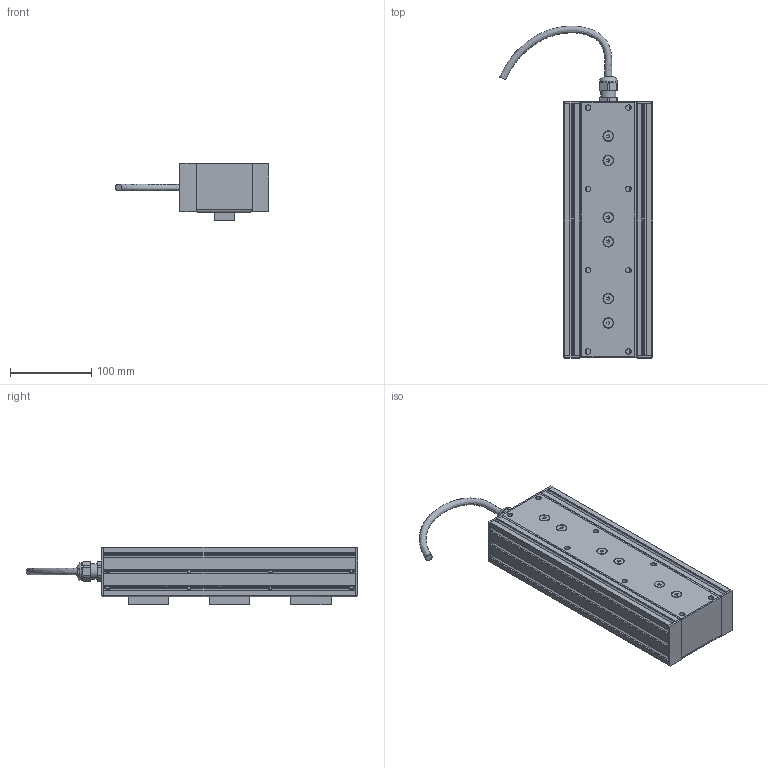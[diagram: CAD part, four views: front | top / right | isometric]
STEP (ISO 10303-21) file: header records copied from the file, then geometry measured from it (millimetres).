
FILE_DESCRIPTION(/* description */ (''),/* implementation_level */ '2;1');
FILE_NAME(/* name */ 'ELFQ-FA-PR103-T.step',/* time_stamp */ '2024-05-23T14:33:56+09:00',/* author */ (''),/* organization */ (''),/* preprocessor_version */ 'ST-DEVELOPER v20',/* originating_system */ 'Autodesk Translation Framework v13.14.0.145',/* authorisation */ '');
FILE_SCHEMA (('AUTOMOTIVE_DESIGN { 1 0 10303 214 3 1 1 }'));
Products named in the file (53): 19103-1B(ELFQ-FA-PR103-T); 18995-3-01; LBNR5; LBNR5_1; LBNR5_2; LBNR5_3; LBNR5_4; LBNR5_5; LBNR5_6; LBNR5_7; LBNR5_8; BOX-SFB5-15; LBNR5 v1(ミラー); LBNR5(ミラー); BOX-SFB5-15 v2(ミラー); SKINTOP ST PG 11      Art. Nr. 53015020(F=4); SKINTOP ST PG 11      Art. Nr. 53015020(F=4)_1; SKINTOP GMP-GL PG 11      Art. Nr. 53019020; SKINTOP GMP-GL PG 11      Art. Nr. 53019020_1; UL2464-OHFR-PCVV-19AWGx4C; 18995-3-02; SFB6-15; 18995-3-03; 18995-3-03_1; 18995-3-03_2; HFS5-2060-310; HFC5-2060-S; HFC5-2060-S_1; SSH-M5-10; HFC5-2060-S v1(ミラー); HFC5-2060-S(ミラー); SSH-M5-10_1; SSH-M5-10_2; SSH-M5-10_3; SSH-M5-10_4; SSH-M5-10_5; SSH-M5-10_6; SSH-M5-10_7; SSH-M5-10_8; 18995-3-05 v2(ミラー)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
Assembly tree (93 placements, depth 4):
  19103-1B(ELFQ-FA-PR103-T)
    18995-3-01
      LBNR5
        LBNR5_8
      LBNR5_1
        LBNR5_8
      LBNR5_2
        LBNR5_8
      LBNR5_3
        LBNR5_8
      LBNR5_4
        LBNR5_8
      LBNR5_5
        LBNR5_8
      LBNR5_6
        LBNR5_8
      LBNR5_7
        LBNR5_8
      BOX-SFB5-15  x5
      LBNR5 v1(ミラー)  x8
        LBNR5(ミラー)
      BOX-SFB5-15 v2(ミラー)  x5
      SKINTOP ST PG 11      Art. Nr. 53015020(F=4)
        SKINTOP ST PG 11      Art. Nr. 53015020(F=4)_1
      SKINTOP GMP-GL PG 11      Art. Nr. 53019020
        SKINTOP GMP-GL PG 11      Art. Nr. 53019020_1
      UL2464-OHFR-PCVV-19AWGx4C
    18995-3-02
      SFB6-15  x6
      18995-3-03
      18995-3-03_1
      18995-3-03_2
    HFS5-2060-310
      HFC5-2060-S
        HFC5-2060-S_1
      SSH-M5-10
        SSH-M5-10_8
      HFC5-2060-S v1(ミラー)
        HFC5-2060-S(ミラー)
      SSH-M5-10_1
        SSH-M5-10_8
      SSH-M5-10_2
        SSH-M5-10_8
      SSH-M5-10_3
        SSH-M5-10_8
      SSH-M5-10_4
        SSH-M5-10_8
      SSH-M5-10_5
        SSH-M5-10_8
      SSH-M5-10_6
        SSH-M5-10_8
      SSH-M5-10_7
        SSH-M5-10_8
    18995-3-05 v2(ミラー)
      HFC5-2060-S v1(ミラー)_1
        HFC5-2060-S(ミラー)_1
      SSH-M5-10 v1(ミラー)
        SSH-M5-10(ミラー)
      SSH-M5-10 v1(ミラー)_1
        SSH-M5-10(ミラー)
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Bounding box: 188.37 x 408.53 x 71 mm (x, y, z)
Volume: 876617.6 mm3; surface area: 540763.1 mm2
Topology: 24 solids, 1115 shells, 2137 faces, 7675 edges, 6511 vertices
Faces by surface type: plane 1257, cylinder 590, cone 283, torus 5, bspline 2
Full cylindrical faces by diameter (mm): 1.5 x12, 4 x1, 4.134 x16, 4.2 x22, 4.234 x10, 5 x42, 5.035 x12, 6 x19, 6.779 x8, 7 x6, 8.5 x1, 9 x16, 10 x22, 12 x6, 17.4 x1, 17.67 x2, 18.6 x2, 19 x1, 22 x1, 26 x1
Entity records: 61268 total; most frequent: CARTESIAN_POINT 15663, DIRECTION 9249, ORIENTED_EDGE 7331, EDGE_CURVE 4964, VERTEX_POINT 4130, AXIS2_PLACEMENT_3D 3125, LINE 2999, VECTOR 2999
